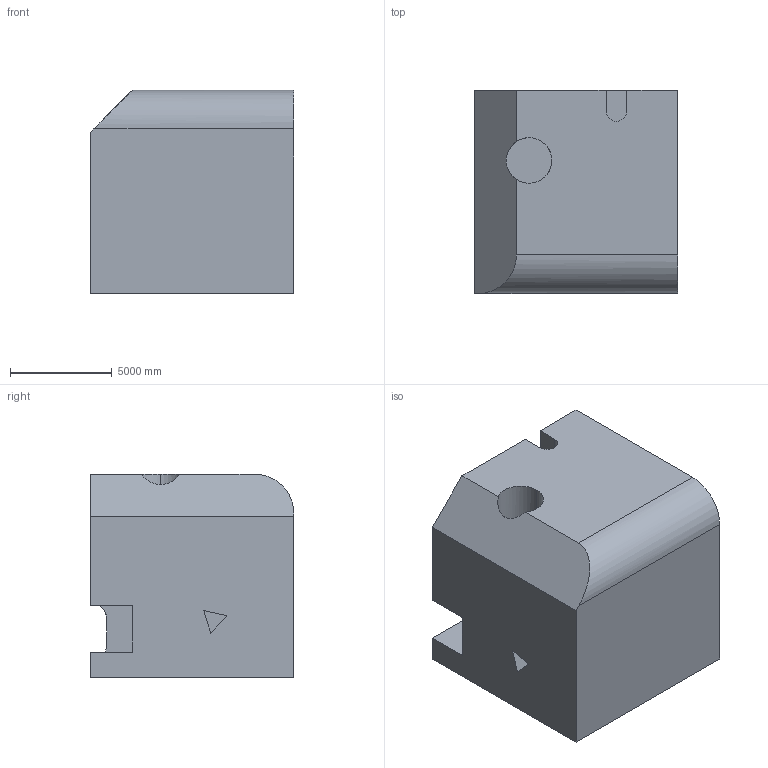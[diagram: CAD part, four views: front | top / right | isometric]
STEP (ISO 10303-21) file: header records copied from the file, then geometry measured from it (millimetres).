
FILE_DESCRIPTION (( 'STEP AP203' ), '1' );
FILE_NAME ('1880.STEP', '2022-08-25T16:19:08', ( 'user' ), ( '' ), 'SwSTEP 2.0', 'SolidWorks 2021', '' );
FILE_SCHEMA (( 'CONFIG_CONTROL_DESIGN' ));
Length unit declared in the file: centimetre
Products named in the file (1): 1880
Bounding box: 10000 x 10000 x 10000 mm (x, y, z)
Volume: 892885053734.9 mm3; surface area: 643443294.1 mm2
Topology: 1 solids, 1 shells, 34 faces, 90 edges, 60 vertices
Faces by surface type: plane 28, cylinder 6
Entity records: 1123 total; most frequent: CARTESIAN_POINT 194, ORIENTED_EDGE 180, DIRECTION 169, EDGE_CURVE 90, VECTOR 75, LINE 75, VERTEX_POINT 60, AXIS2_PLACEMENT_3D 47
